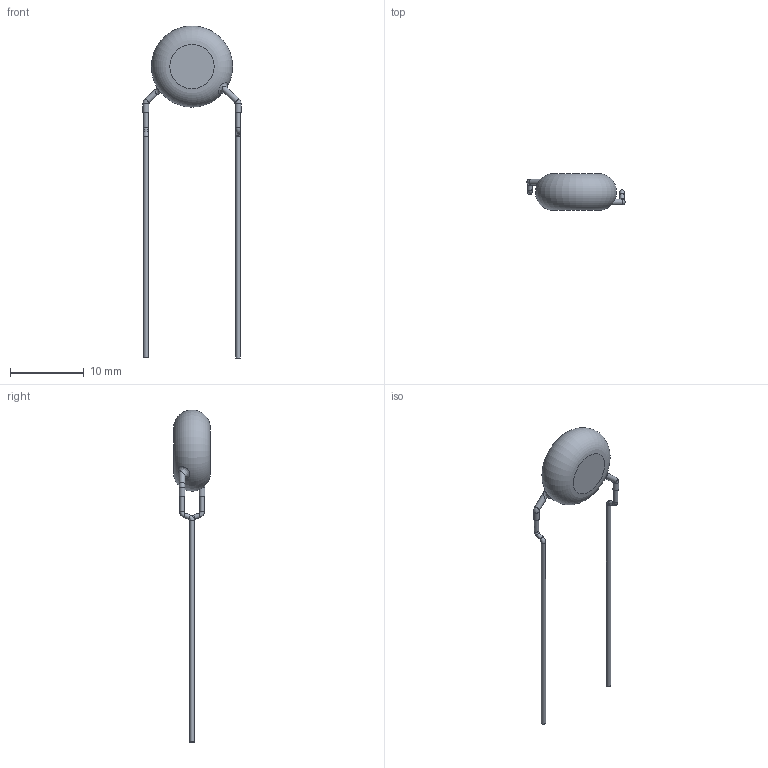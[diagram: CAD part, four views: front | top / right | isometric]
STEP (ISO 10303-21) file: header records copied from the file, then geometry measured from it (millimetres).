
FILE_DESCRIPTION((''),'2;1');
FILE_NAME('I:\Marketing\M6t1\3D-Models\Zchng-Werk-3\Upload for homepage\BCC\VY1-Compact\Y5U-12,5mm\VY1222M43Y5UC63VX\VY1222M43Y5UC63VX.stp','2015-09-01T11:54:39',('sherden'),(''),'Autodesk Inventor 2013','Autodesk Inventor 2013','');
FILE_SCHEMA(('CONFIG_CONTROL_DESIGN'));
Length unit declared in the file: millimetre
Products named in the file (1): VY1222M43Y5UC63VX
Bounding box: 13.3 x 5 x 45 mm (x, y, z)
Volume: 415.8 mm3; surface area: 431.8 mm2
Topology: 1 solids, 1 shells, 25 faces, 45 edges, 26 vertices
Faces by surface type: cylinder 10, torus 7, plane 6, bspline 2
Full cylindrical faces by diameter (mm): 0.6 x6, 0.8 x4
Entity records: 851 total; most frequent: CARTESIAN_POINT 374, DIRECTION 92, ORIENTED_EDGE 52, AXIS2_PLACEMENT_3D 46, EDGE_LOOP 46, EDGE_CURVE 26, STYLED_ITEM 26, FACE_OUTER_BOUND 25
